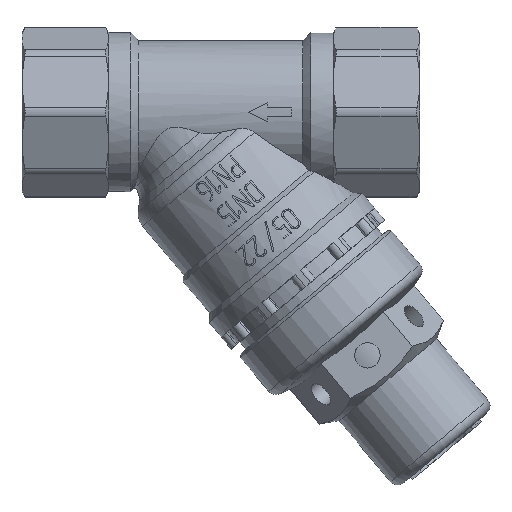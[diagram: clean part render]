
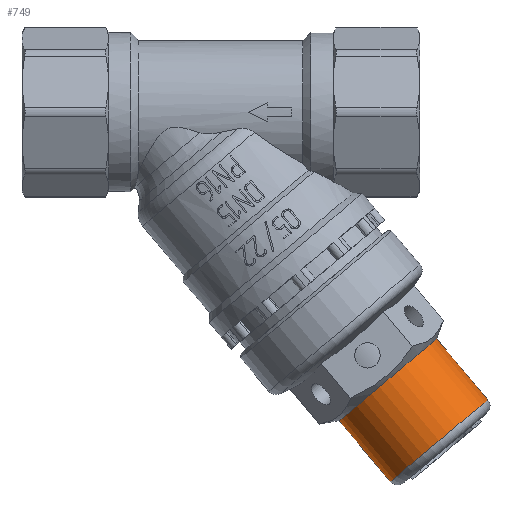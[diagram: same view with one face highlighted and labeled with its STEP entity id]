
A CAD part, left-side view. The second image highlights one B-rep face of the part: STEP entity #749.
In plain terms, the highlighted cylindrical face has radius 10 mm (diameter 20 mm), a full revolution.
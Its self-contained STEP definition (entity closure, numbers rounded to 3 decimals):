
#749=ADVANCED_FACE('',(#5526,#5528),#5530,.T.);
#5526=FACE_OUTER_BOUND('',#5527,.T.);
#5527=EDGE_LOOP('',(#10616));
#5528=FACE_OUTER_BOUND('',#5529,.T.);
#5529=EDGE_LOOP('',(#10617));
#5530=CYLINDRICAL_SURFACE('',#5531,10.);
#5531=AXIS2_PLACEMENT_3D('',#5532,#5533,#5534);
#5532=CARTESIAN_POINT('',(0.,-23.719,-28.267));
#5533=DIRECTION('',(0.,-0.643,-0.766));
#5534=DIRECTION('',(1.,0.,0.));
#10616=ORIENTED_EDGE('',*,*,#12752,.T.);
#10617=ORIENTED_EDGE('',*,*,#12759,.F.);
#12752=EDGE_CURVE('',#16064,#16064,#16065,.T.);
#12759=EDGE_CURVE('',#16078,#16078,#16079,.T.);
#16064=VERTEX_POINT('',#33001);
#16065=CIRCLE('',#33002,10.);
#16078=VERTEX_POINT('',#33424);
#16079=CIRCLE('',#33425,10.);
#33001=CARTESIAN_POINT('',(10.,-35.289,-42.056));
#33002=AXIS2_PLACEMENT_3D('',#33003,#33004,#33005);
#33003=CARTESIAN_POINT('',(0.,-35.289,-42.056));
#33004=DIRECTION('',(0.,-0.643,-0.766));
#33005=DIRECTION('',(1.,0.,0.));
#33424=CARTESIAN_POINT('',(10.,-43.324,-51.631));
#33425=AXIS2_PLACEMENT_3D('',#33426,#33427,#33428);
#33426=CARTESIAN_POINT('',(0.,-43.324,-51.631));
#33427=DIRECTION('',(0.,-0.643,-0.766));
#33428=DIRECTION('',(1.,0.,0.));
